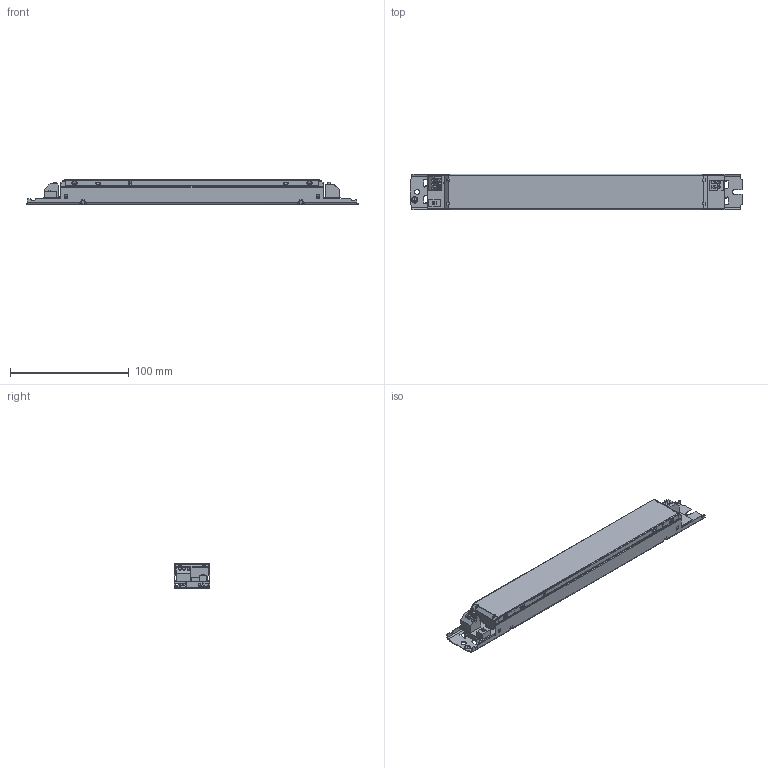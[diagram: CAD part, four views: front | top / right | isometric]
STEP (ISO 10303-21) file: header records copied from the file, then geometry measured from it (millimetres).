
FILE_DESCRIPTION((''),'2;1');
FILE_NAME('15014922Z_DATAMEC_280X30X21','2022-01-26T11:24:35',('elon.guo'),(''),'CREO PARAMETRIC BY PTC INC, 2021184','CREO PARAMETRIC BY PTC INC, 2021184','');
FILE_SCHEMA(('CONFIG_CONTROL_DESIGN'));
Products named in the file (1): 15014922Z_DATAMEC_280X30X21
Bounding box: 280 x 30 x 21 mm (x, y, z)
Volume: 50282.5 mm3; surface area: 84773.9 mm2
Topology: 6 solids, 9 shells, 2143 faces, 5526 edges, 3453 vertices
Faces by surface type: plane 1313, cylinder 588, bspline 164, torus 32, sphere 26, cone 20
Entity records: 72187 total; most frequent: CARTESIAN_POINT 20434, ORIENTED_EDGE 10988, DIRECTION 10371, EDGE_CURVE 5494, VECTOR 3631, LINE 3631, VERTEX_POINT 3453, AXIS2_PLACEMENT_3D 3370
